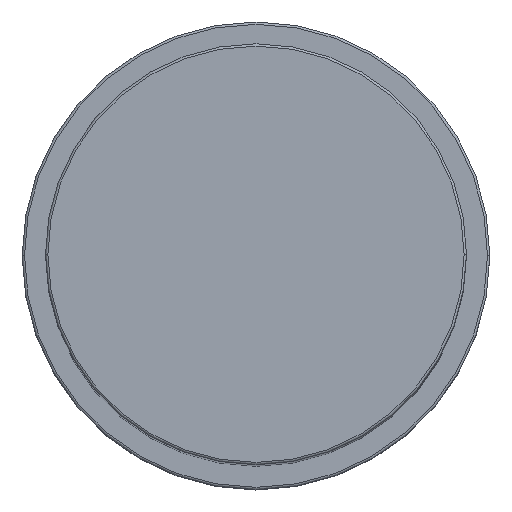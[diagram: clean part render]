
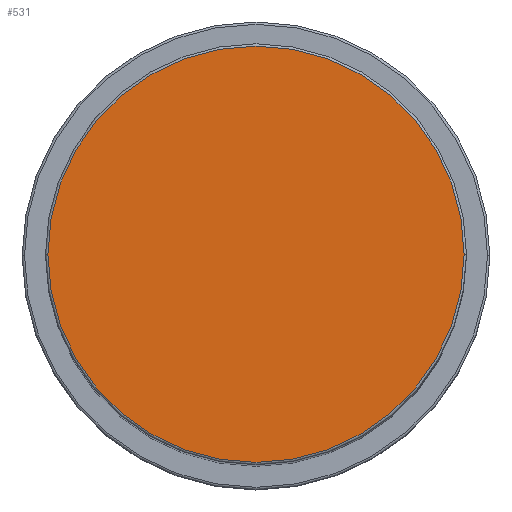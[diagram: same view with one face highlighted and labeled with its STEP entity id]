
A CAD part, top view. The second image highlights one B-rep face of the part: STEP entity #531.
In plain terms, the highlighted planar face has unit normal (0, 0, 1).
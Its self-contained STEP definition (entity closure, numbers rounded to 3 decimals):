
#136 = EDGE_CURVE ( 'NONE', #1891, #1998, #1742, .T. ) ;
#169 = AXIS2_PLACEMENT_3D ( 'NONE', #548, #402, #697 ) ;
#331 = FACE_OUTER_BOUND ( 'NONE', #1736, .T. ) ;
#346 = ORIENTED_EDGE ( 'NONE', *, *, #582, .T. ) ;
#348 = CARTESIAN_POINT ( 'NONE',  ( 0., 0., 214. ) ) ;
#395 = AXIS2_PLACEMENT_3D ( 'NONE', #348, #1444, #1464 ) ;
#402 = DIRECTION ( 'NONE',  ( 0., 0., 1. ) ) ;
#531 = ADVANCED_FACE ( 'NONE', ( #331 ), #634, .T. ) ;
#548 = CARTESIAN_POINT ( 'NONE',  ( 0., 0., 214. ) ) ;
#582 = EDGE_CURVE ( 'NONE', #1998, #1891, #900, .T. ) ;
#634 = PLANE ( 'NONE',  #395 ) ;
#697 = DIRECTION ( 'NONE',  ( 1., 0., 0. ) ) ;
#709 = AXIS2_PLACEMENT_3D ( 'NONE', #986, #1616, #840 ) ;
#840 = DIRECTION ( 'NONE',  ( 1., 0., 0. ) ) ;
#900 = CIRCLE ( 'NONE', #709, 44.5 ) ;
#986 = CARTESIAN_POINT ( 'NONE',  ( 0., 0., 214. ) ) ;
#1180 = CARTESIAN_POINT ( 'NONE',  ( 44.5, 0., 214. ) ) ;
#1310 = CARTESIAN_POINT ( 'NONE',  ( -44.5, 0., 214. ) ) ;
#1423 = ORIENTED_EDGE ( 'NONE', *, *, #136, .T. ) ;
#1444 = DIRECTION ( 'NONE',  ( 0., 0., 1. ) ) ;
#1464 = DIRECTION ( 'NONE',  ( 1., 0., 0. ) ) ;
#1616 = DIRECTION ( 'NONE',  ( 0., 0., 1. ) ) ;
#1736 = EDGE_LOOP ( 'NONE', ( #346, #1423 ) ) ;
#1742 = CIRCLE ( 'NONE', #169, 44.5 ) ;
#1891 = VERTEX_POINT ( 'NONE', #1310 ) ;
#1998 = VERTEX_POINT ( 'NONE', #1180 ) ;
